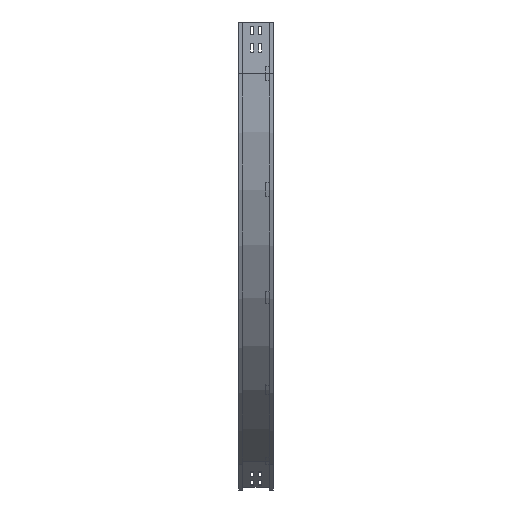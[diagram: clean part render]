
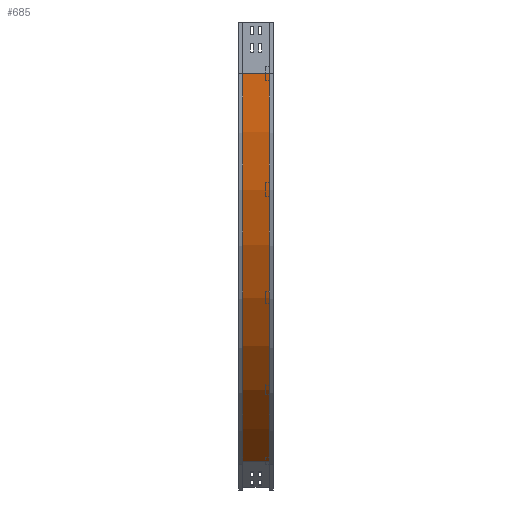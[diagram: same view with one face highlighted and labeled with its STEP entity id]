
A CAD part, left-side view. The second image highlights one B-rep face of the part: STEP entity #685.
In plain terms, the highlighted cylindrical face has radius 1300 mm (diameter 2600 mm), a partial arc.
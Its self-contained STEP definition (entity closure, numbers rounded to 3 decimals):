
#161 = EDGE_CURVE ( 'NONE', #3827, #532, #386, .T. ) ;
#263 = DIRECTION ( 'NONE',  ( 0., -1., 0. ) ) ;
#335 = AXIS2_PLACEMENT_3D ( 'NONE', #3292, #1865, #2943 ) ;
#386 = LINE ( 'NONE', #438, #1356 ) ;
#438 = CARTESIAN_POINT ( 'NONE',  ( 659., 12., -1275.833 ) ) ;
#480 = DIRECTION ( 'NONE',  ( 0., -1., 0. ) ) ;
#495 = AXIS2_PLACEMENT_3D ( 'NONE', #3009, #2306, #4001 ) ;
#520 = FACE_OUTER_BOUND ( 'NONE', #2221, .T. ) ;
#532 = VERTEX_POINT ( 'NONE', #1773 ) ;
#552 = CARTESIAN_POINT ( 'NONE',  ( 1309., 12., -150. ) ) ;
#685 = ADVANCED_FACE ( 'NONE', ( #520 ), #2961, .T. ) ;
#1042 = ORIENTED_EDGE ( 'NONE', *, *, #2215, .T. ) ;
#1078 = ORIENTED_EDGE ( 'NONE', *, *, #3736, .F. ) ;
#1102 = AXIS2_PLACEMENT_3D ( 'NONE', #552, #263, #1277 ) ;
#1157 = LINE ( 'NONE', #2905, #2090 ) ;
#1277 = DIRECTION ( 'NONE',  ( -1., 0., 0. ) ) ;
#1350 = CARTESIAN_POINT ( 'NONE',  ( 9., 88., -150. ) ) ;
#1356 = VECTOR ( 'NONE', #3254, 1000. ) ;
#1773 = CARTESIAN_POINT ( 'NONE',  ( 659., 12., -1275.833 ) ) ;
#1796 = CARTESIAN_POINT ( 'NONE',  ( 9., 12., -150. ) ) ;
#1824 = CIRCLE ( 'NONE', #1102, 1300. ) ;
#1865 = DIRECTION ( 'NONE',  ( 0., -1., 0. ) ) ;
#1965 = CARTESIAN_POINT ( 'NONE',  ( 659., 88., -1275.833 ) ) ;
#1991 = VERTEX_POINT ( 'NONE', #1796 ) ;
#2090 = VECTOR ( 'NONE', #480, 1000. ) ;
#2215 = EDGE_CURVE ( 'NONE', #2259, #3827, #2637, .T. ) ;
#2221 = EDGE_LOOP ( 'NONE', ( #4334, #1078, #1042, #3073 ) ) ;
#2259 = VERTEX_POINT ( 'NONE', #1350 ) ;
#2306 = DIRECTION ( 'NONE',  ( 0., -1., 0. ) ) ;
#2549 = EDGE_CURVE ( 'NONE', #1991, #532, #1824, .T. ) ;
#2637 = CIRCLE ( 'NONE', #495, 1300. ) ;
#2905 = CARTESIAN_POINT ( 'NONE',  ( 9., 12., -150. ) ) ;
#2943 = DIRECTION ( 'NONE',  ( 0., 0., -1. ) ) ;
#2961 = CYLINDRICAL_SURFACE ( 'NONE', #335, 1300. ) ;
#3009 = CARTESIAN_POINT ( 'NONE',  ( 1309., 88., -150. ) ) ;
#3073 = ORIENTED_EDGE ( 'NONE', *, *, #161, .T. ) ;
#3254 = DIRECTION ( 'NONE',  ( 0., -1., 0. ) ) ;
#3292 = CARTESIAN_POINT ( 'NONE',  ( 1309., 0., -150. ) ) ;
#3736 = EDGE_CURVE ( 'NONE', #2259, #1991, #1157, .T. ) ;
#3827 = VERTEX_POINT ( 'NONE', #1965 ) ;
#4001 = DIRECTION ( 'NONE',  ( -1., 0., 0. ) ) ;
#4334 = ORIENTED_EDGE ( 'NONE', *, *, #2549, .F. ) ;
